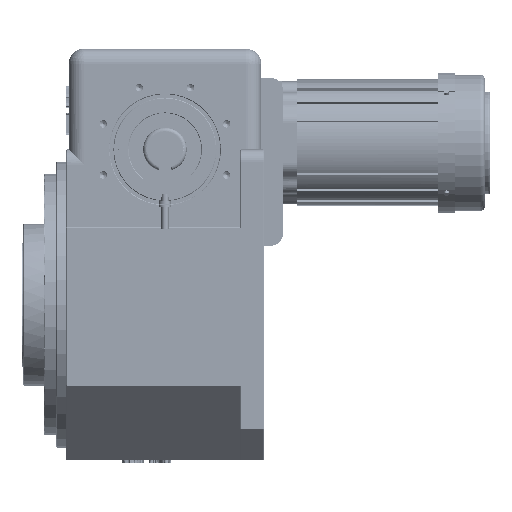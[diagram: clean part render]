
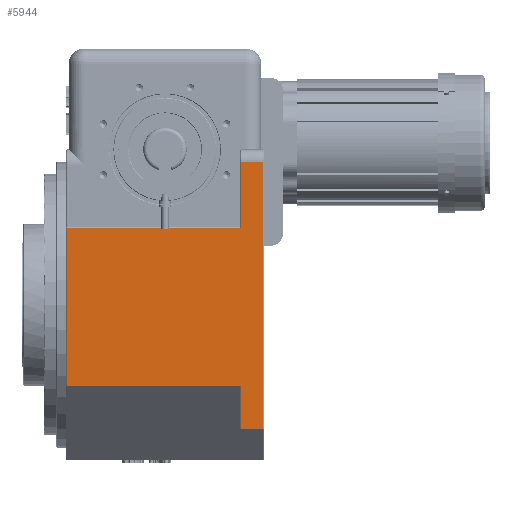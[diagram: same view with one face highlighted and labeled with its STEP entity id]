
A CAD part, left-side view. The second image highlights one B-rep face of the part: STEP entity #5944.
In plain terms, the highlighted planar face has unit normal (-1, 0, 0).
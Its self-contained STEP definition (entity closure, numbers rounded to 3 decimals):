
#5944 = ADVANCED_FACE ( 'NONE', ( #245685 ), #74852, .F. ) ;
#7138 = EDGE_CURVE ( 'NONE', #149822, #38687, #144127, .T. ) ;
#8219 = ORIENTED_EDGE ( 'NONE', *, *, #298789, .F. ) ;
#15423 = ORIENTED_EDGE ( 'NONE', *, *, #85884, .F. ) ;
#20257 = ORIENTED_EDGE ( 'NONE', *, *, #273875, .F. ) ;
#21709 = CARTESIAN_POINT ( 'NONE',  ( -250., 320., 123. ) ) ;
#26360 = VECTOR ( 'NONE', #278967, 1000. ) ;
#32573 = LINE ( 'NONE', #21709, #148241 ) ;
#35541 = CARTESIAN_POINT ( 'NONE',  ( -250., 38., -200. ) ) ;
#38687 = VERTEX_POINT ( 'NONE', #143225 ) ;
#45176 = CARTESIAN_POINT ( 'NONE',  ( -250., 38., 230. ) ) ;
#46753 = VERTEX_POINT ( 'NONE', #161013 ) ;
#47831 = CARTESIAN_POINT ( 'NONE',  ( -250., 2., 230. ) ) ;
#49025 = EDGE_CURVE ( 'NONE', #292441, #51545, #81722, .T. ) ;
#51545 = VERTEX_POINT ( 'NONE', #45176 ) ;
#56929 = DIRECTION ( 'NONE',  ( 0., 0., -1. ) ) ;
#57282 = DIRECTION ( 'NONE',  ( 1., 0., 0. ) ) ;
#58293 = CARTESIAN_POINT ( 'NONE',  ( -250., 320., -200. ) ) ;
#58808 = DIRECTION ( 'NONE',  ( 0., 0., 1. ) ) ;
#62813 = CARTESIAN_POINT ( 'NONE',  ( -250., 38., -130. ) ) ;
#64692 = VERTEX_POINT ( 'NONE', #158490 ) ;
#67371 = CARTESIAN_POINT ( 'NONE',  ( -250., 2., -200. ) ) ;
#68527 = ORIENTED_EDGE ( 'NONE', *, *, #49025, .F. ) ;
#74852 = PLANE ( 'NONE',  #223496 ) ;
#77935 = CARTESIAN_POINT ( 'NONE',  ( -250., 320., -200. ) ) ;
#78404 = EDGE_CURVE ( 'NONE', #85898, #64692, #112321, .T. ) ;
#81722 = LINE ( 'NONE', #91364, #265481 ) ;
#85884 = EDGE_CURVE ( 'NONE', #232498, #64692, #207343, .T. ) ;
#85898 = VERTEX_POINT ( 'NONE', #117838 ) ;
#88344 = DIRECTION ( 'NONE',  ( 0., 0., 1. ) ) ;
#91364 = CARTESIAN_POINT ( 'NONE',  ( -250., 38., -200. ) ) ;
#97592 = ORIENTED_EDGE ( 'NONE', *, *, #78404, .T. ) ;
#110650 = DIRECTION ( 'NONE',  ( 0., 0., 1. ) ) ;
#111656 = ORIENTED_EDGE ( 'NONE', *, *, #277857, .F. ) ;
#112321 = LINE ( 'NONE', #77935, #288792 ) ;
#116720 = DIRECTION ( 'NONE',  ( 0., -1., 0. ) ) ;
#117838 = CARTESIAN_POINT ( 'NONE',  ( -250., 38., -200. ) ) ;
#140381 = VECTOR ( 'NONE', #272929, 1000. ) ;
#143225 = CARTESIAN_POINT ( 'NONE',  ( -250., 318., -130. ) ) ;
#144127 = LINE ( 'NONE', #174202, #198009 ) ;
#146590 = LINE ( 'NONE', #248539, #200487 ) ;
#148241 = VECTOR ( 'NONE', #116720, 1000. ) ;
#149822 = VERTEX_POINT ( 'NONE', #62813 ) ;
#150453 = VECTOR ( 'NONE', #58808, 1000. ) ;
#158490 = CARTESIAN_POINT ( 'NONE',  ( -250., 2., -200. ) ) ;
#161013 = CARTESIAN_POINT ( 'NONE',  ( -250., 318., 123. ) ) ;
#169384 = DIRECTION ( 'NONE',  ( 0., 1., 0. ) ) ;
#172954 = CARTESIAN_POINT ( 'NONE',  ( -250., 38., 123. ) ) ;
#174202 = CARTESIAN_POINT ( 'NONE',  ( -250., 320., -130. ) ) ;
#198009 = VECTOR ( 'NONE', #169384, 1000. ) ;
#200487 = VECTOR ( 'NONE', #110650, 1000. ) ;
#201475 = LINE ( 'NONE', #248740, #140381 ) ;
#207343 = LINE ( 'NONE', #67371, #26360 ) ;
#215973 = DIRECTION ( 'NONE',  ( 0., -1., 0. ) ) ;
#222852 = ORIENTED_EDGE ( 'NONE', *, *, #7138, .F. ) ;
#223496 = AXIS2_PLACEMENT_3D ( 'NONE', #58293, #57282, #56929 ) ;
#232498 = VERTEX_POINT ( 'NONE', #47831 ) ;
#245685 = FACE_OUTER_BOUND ( 'NONE', #297633, .T. ) ;
#248539 = CARTESIAN_POINT ( 'NONE',  ( -250., 318., -200. ) ) ;
#248740 = CARTESIAN_POINT ( 'NONE',  ( -250., 320., 230. ) ) ;
#254160 = ORIENTED_EDGE ( 'NONE', *, *, #275041, .F. ) ;
#265481 = VECTOR ( 'NONE', #88344, 1000. ) ;
#272920 = LINE ( 'NONE', #35541, #150453 ) ;
#272929 = DIRECTION ( 'NONE',  ( 0., -1., 0. ) ) ;
#273875 = EDGE_CURVE ( 'NONE', #51545, #232498, #201475, .T. ) ;
#275041 = EDGE_CURVE ( 'NONE', #85898, #149822, #272920, .T. ) ;
#277857 = EDGE_CURVE ( 'NONE', #38687, #46753, #146590, .T. ) ;
#278967 = DIRECTION ( 'NONE',  ( 0., 0., -1. ) ) ;
#288792 = VECTOR ( 'NONE', #215973, 1000. ) ;
#292441 = VERTEX_POINT ( 'NONE', #172954 ) ;
#297633 = EDGE_LOOP ( 'NONE', ( #20257, #68527, #8219, #111656, #222852, #254160, #97592, #15423 ) ) ;
#298789 = EDGE_CURVE ( 'NONE', #46753, #292441, #32573, .T. ) ;
